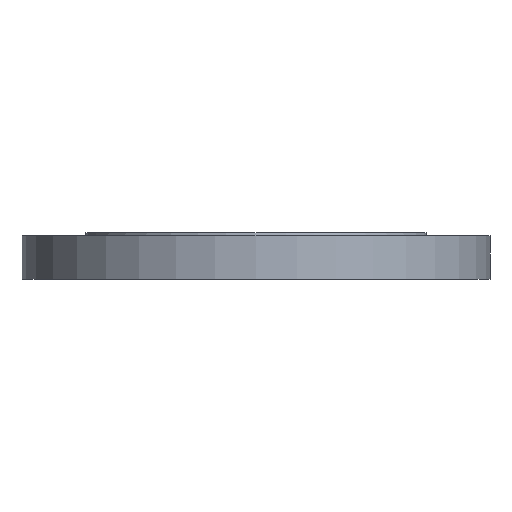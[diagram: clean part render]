
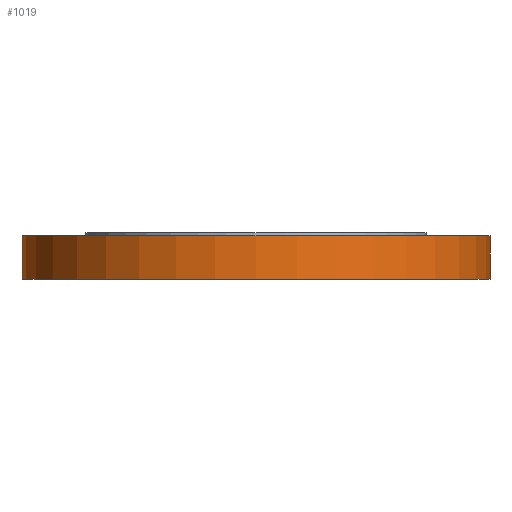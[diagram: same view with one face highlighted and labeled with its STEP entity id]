
A CAD part, front view. The second image highlights one B-rep face of the part: STEP entity #1019.
In plain terms, the highlighted cylindrical face has radius 150 mm (diameter 300 mm), a partial arc.
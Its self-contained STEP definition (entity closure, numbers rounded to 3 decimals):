
#14 = CIRCLE ( 'NONE', #23, 150. ) ;
#22 = DIRECTION ( 'NONE',  ( -1., 0., 0. ) ) ;
#23 = AXIS2_PLACEMENT_3D ( 'NONE', #519, #801, #22 ) ;
#37 = DIRECTION ( 'NONE',  ( -1., 0., 0. ) ) ;
#79 = CARTESIAN_POINT ( 'NONE',  ( 150., 0., -85. ) ) ;
#158 = DIRECTION ( 'NONE',  ( 1., 0., 0. ) ) ;
#183 = VECTOR ( 'NONE', #275, 1000. ) ;
#212 = VECTOR ( 'NONE', #776, 1000. ) ;
#234 = ORIENTED_EDGE ( 'NONE', *, *, #952, .F. ) ;
#247 = ORIENTED_EDGE ( 'NONE', *, *, #277, .T. ) ;
#253 = CYLINDRICAL_SURFACE ( 'NONE', #310, 150. ) ;
#275 = DIRECTION ( 'NONE',  ( 0., 0., 1. ) ) ;
#277 = EDGE_CURVE ( 'NONE', #833, #380, #1034, .T. ) ;
#287 = CIRCLE ( 'NONE', #325, 150. ) ;
#289 = EDGE_CURVE ( 'NONE', #755, #658, #974, .T. ) ;
#310 = AXIS2_PLACEMENT_3D ( 'NONE', #623, #894, #158 ) ;
#312 = CARTESIAN_POINT ( 'NONE',  ( 150., 0., -30. ) ) ;
#325 = AXIS2_PLACEMENT_3D ( 'NONE', #534, #813, #37 ) ;
#380 = VERTEX_POINT ( 'NONE', #509 ) ;
#381 = CARTESIAN_POINT ( 'NONE',  ( -150., 0., -2. ) ) ;
#400 = CARTESIAN_POINT ( 'NONE',  ( -150., 0., -85. ) ) ;
#436 = EDGE_CURVE ( 'NONE', #380, #658, #14, .T. ) ;
#467 = EDGE_LOOP ( 'NONE', ( #654, #234, #247, #1040 ) ) ;
#509 = CARTESIAN_POINT ( 'NONE',  ( 150., 0., -2. ) ) ;
#519 = CARTESIAN_POINT ( 'NONE',  ( 0., 0., -2. ) ) ;
#534 = CARTESIAN_POINT ( 'NONE',  ( 0., 0., -30. ) ) ;
#623 = CARTESIAN_POINT ( 'NONE',  ( 0., 0., -85. ) ) ;
#646 = CARTESIAN_POINT ( 'NONE',  ( -150., 0., -30. ) ) ;
#654 = ORIENTED_EDGE ( 'NONE', *, *, #289, .F. ) ;
#658 = VERTEX_POINT ( 'NONE', #381 ) ;
#755 = VERTEX_POINT ( 'NONE', #646 ) ;
#776 = DIRECTION ( 'NONE',  ( 0., 0., 1. ) ) ;
#801 = DIRECTION ( 'NONE',  ( 0., 0., -1. ) ) ;
#813 = DIRECTION ( 'NONE',  ( 0., 0., -1. ) ) ;
#833 = VERTEX_POINT ( 'NONE', #312 ) ;
#894 = DIRECTION ( 'NONE',  ( 0., 0., 1. ) ) ;
#952 = EDGE_CURVE ( 'NONE', #833, #755, #287, .T. ) ;
#955 = FACE_OUTER_BOUND ( 'NONE', #467, .T. ) ;
#974 = LINE ( 'NONE', #400, #183 ) ;
#1019 = ADVANCED_FACE ( 'NONE', ( #955 ), #253, .T. ) ;
#1034 = LINE ( 'NONE', #79, #212 ) ;
#1040 = ORIENTED_EDGE ( 'NONE', *, *, #436, .T. ) ;
